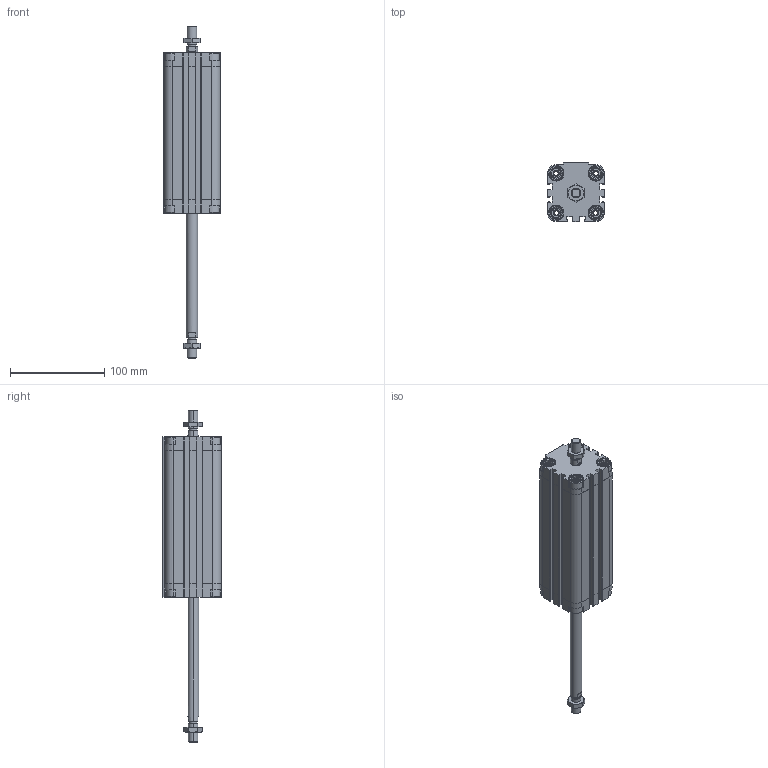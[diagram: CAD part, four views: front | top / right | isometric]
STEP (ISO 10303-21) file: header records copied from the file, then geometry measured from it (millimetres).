
FILE_DESCRIPTION (( 'STEP AP203' ), '1' );
FILE_NAME ('CDVU40-125M-P.STEP', '2020-07-21T15:17:37', ( '' ), ( '' ), 'SwSTEP 2.0', 'SolidWorks 2019', '' );
FILE_SCHEMA (( 'CONFIG_CONTROL_DESIGN' ));
Length unit declared in the file: millimetre
Products named in the file (1): CDVU40-125M-P
Bounding box: 60 x 62.5 x 352.5 mm (x, y, z)
Volume: 419898 mm3; surface area: 116594.6 mm2
Topology: 4 solids, 4 shells, 758 faces, 2004 edges, 1290 vertices
Faces by surface type: plane 438, cylinder 240, cone 80
Entity records: 24115 total; most frequent: CARTESIAN_POINT 5193, ORIENTED_EDGE 4000, DIRECTION 3862, EDGE_CURVE 2000, AXIS2_PLACEMENT_3D 1319, VERTEX_POINT 1290, VECTOR 1224, LINE 1224
